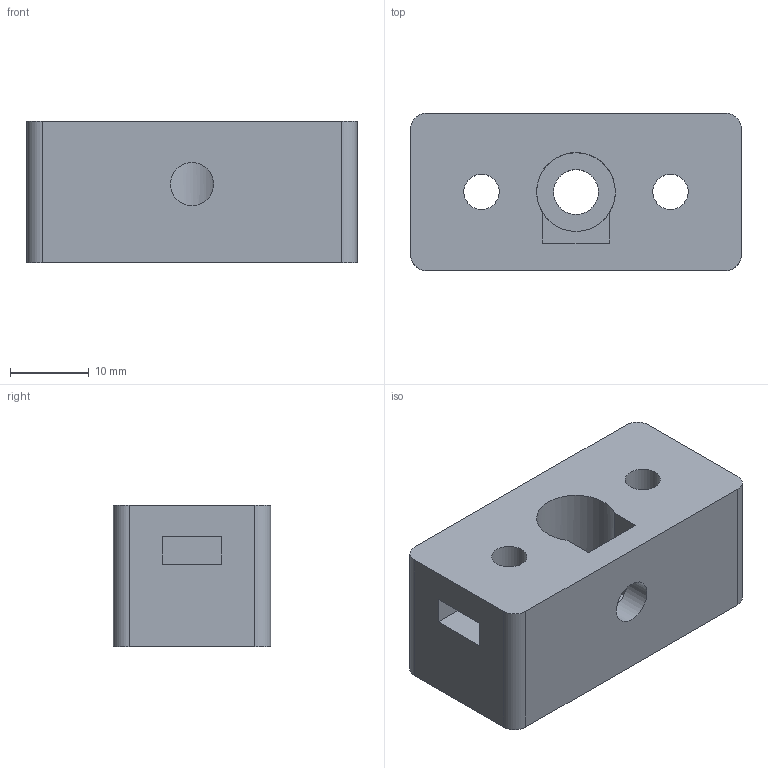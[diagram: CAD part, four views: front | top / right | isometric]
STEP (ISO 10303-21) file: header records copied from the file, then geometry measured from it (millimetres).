
FILE_DESCRIPTION(('Open CASCADE Model'),'2;1');
FILE_NAME('Open CASCADE Shape Model','2026-10-26T02:40:39',('Author'),( 'Open CASCADE'),'Open CASCADE STEP processor 7.9','build123d', 'Unknown');
FILE_SCHEMA(('AUTOMOTIVE_DESIGN { 1 0 10303 214 1 1 1 1 }'));
Length unit declared in the file: millimetre
Products named in the file (1): COMPOUND
Bounding box: 42 x 20 x 18 mm (x, y, z)
Volume: 11403.6 mm3; surface area: 5520.8 mm2
Topology: 1 solids, 1 shells, 36 faces, 87 edges, 58 vertices
Faces by surface type: plane 23, cylinder 13
Full cylindrical faces by diameter (mm): 4.5 x4, 5.5 x1, 5.7 x1, 10 x3
Entity records: 2253 total; most frequent: CARTESIAN_POINT 426, DIRECTION 348, LINE 201, VECTOR 201, ORIENTED_EDGE 174, PCURVE 174, DEFINITIONAL_REPRESENTATION 174, EDGE_CURVE 87
